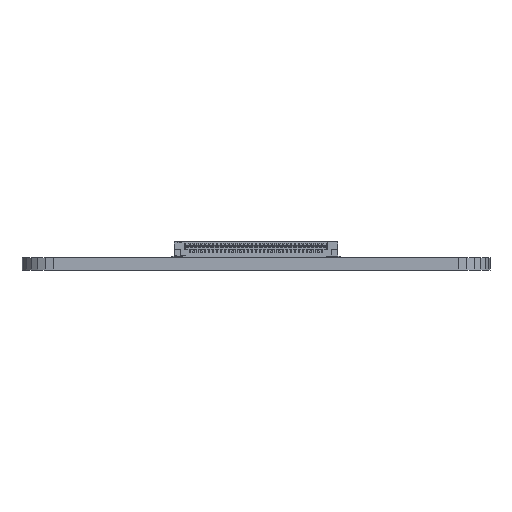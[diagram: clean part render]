
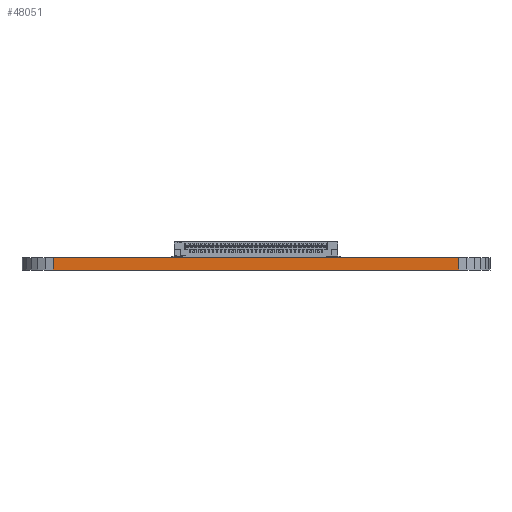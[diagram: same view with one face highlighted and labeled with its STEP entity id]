
A CAD part, front view. The second image highlights one B-rep face of the part: STEP entity #48051.
In plain terms, the highlighted planar face has unit normal (0, -1, 0).
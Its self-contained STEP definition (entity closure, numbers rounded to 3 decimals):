
#2701 = VERTEX_POINT ( 'NONE', #30406 ) ;
#2952 = VECTOR ( 'NONE', #27491, 1000. ) ;
#2989 = DIRECTION ( 'NONE',  ( 0., 0., 1. ) ) ;
#3036 = PLANE ( 'NONE',  #26540 ) ;
#3558 = LINE ( 'NONE', #7866, #11082 ) ;
#3982 = VERTEX_POINT ( 'NONE', #36566 ) ;
#7866 = CARTESIAN_POINT ( 'NONE',  ( 4., 0., 0. ) ) ;
#8446 = EDGE_LOOP ( 'NONE', ( #20549, #41805, #25772, #9953 ) ) ;
#9953 = ORIENTED_EDGE ( 'NONE', *, *, #35282, .T. ) ;
#10434 = LINE ( 'NONE', #11969, #16206 ) ;
#11082 = VECTOR ( 'NONE', #22014, 1000. ) ;
#11969 = CARTESIAN_POINT ( 'NONE',  ( 4., 0., 1.6 ) ) ;
#13329 = CARTESIAN_POINT ( 'NONE',  ( 4., 0., 0. ) ) ;
#15281 = VECTOR ( 'NONE', #2989, 1000. ) ;
#16206 = VECTOR ( 'NONE', #44957, 1000. ) ;
#17327 = CARTESIAN_POINT ( 'NONE',  ( 56., 0., 0. ) ) ;
#18844 = EDGE_CURVE ( 'NONE', #2701, #3982, #10434, .T. ) ;
#20549 = ORIENTED_EDGE ( 'NONE', *, *, #44063, .T. ) ;
#22014 = DIRECTION ( 'NONE',  ( 0., 0., 1. ) ) ;
#22034 = DIRECTION ( 'NONE',  ( 0., -1., 0. ) ) ;
#22357 = VERTEX_POINT ( 'NONE', #13329 ) ;
#23403 = FACE_OUTER_BOUND ( 'NONE', #8446, .T. ) ;
#23876 = VERTEX_POINT ( 'NONE', #17327 ) ;
#25772 = ORIENTED_EDGE ( 'NONE', *, *, #34978, .F. ) ;
#26540 = AXIS2_PLACEMENT_3D ( 'NONE', #40021, #22034, #32383 ) ;
#27491 = DIRECTION ( 'NONE',  ( 1., 0., 0. ) ) ;
#27978 = LINE ( 'NONE', #32007, #15281 ) ;
#30406 = CARTESIAN_POINT ( 'NONE',  ( 4., 0., 1.6 ) ) ;
#32007 = CARTESIAN_POINT ( 'NONE',  ( 56., 0., 0. ) ) ;
#32383 = DIRECTION ( 'NONE',  ( 0., 0., -1. ) ) ;
#34978 = EDGE_CURVE ( 'NONE', #22357, #2701, #3558, .T. ) ;
#35282 = EDGE_CURVE ( 'NONE', #22357, #23876, #45766, .T. ) ;
#36566 = CARTESIAN_POINT ( 'NONE',  ( 56., 0., 1.6 ) ) ;
#40021 = CARTESIAN_POINT ( 'NONE',  ( 4., 0., 0. ) ) ;
#41805 = ORIENTED_EDGE ( 'NONE', *, *, #18844, .F. ) ;
#42569 = CARTESIAN_POINT ( 'NONE',  ( 4., 0., 0. ) ) ;
#44063 = EDGE_CURVE ( 'NONE', #23876, #3982, #27978, .T. ) ;
#44957 = DIRECTION ( 'NONE',  ( 1., 0., 0. ) ) ;
#45766 = LINE ( 'NONE', #42569, #2952 ) ;
#48051 = ADVANCED_FACE ( 'NONE', ( #23403 ), #3036, .T. ) ;
